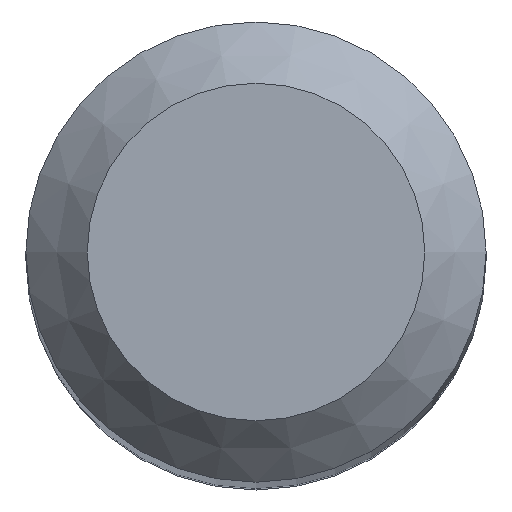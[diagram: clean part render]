
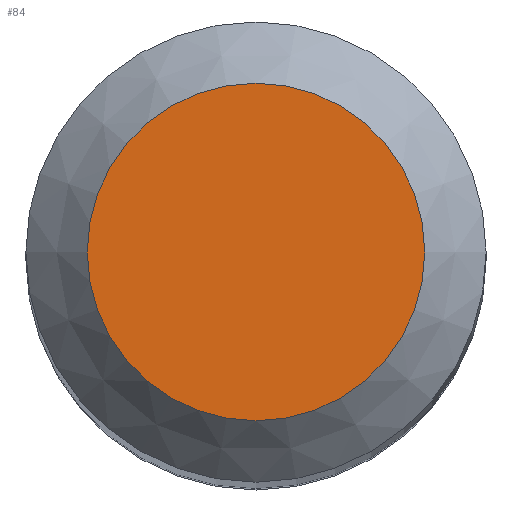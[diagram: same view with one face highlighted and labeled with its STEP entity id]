
A CAD part, top view. The second image highlights one B-rep face of the part: STEP entity #84.
In plain terms, the highlighted planar face has unit normal (0, 0, 1).
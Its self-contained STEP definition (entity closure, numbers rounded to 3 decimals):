
#68=CARTESIAN_POINT('',(2.2,0.0,62.0));
#69=DIRECTION('',(0.0,0.0,1.0));
#70=DIRECTION('',(1.0,0.0,0.0));
#71=AXIS2_PLACEMENT_3D('',#68,#69,#70);
#72=PLANE('',#71);
#73=CARTESIAN_POINT('',(-2.2,0.0,62.0));
#74=VERTEX_POINT('',#73);
#75=CARTESIAN_POINT('',(0.0,0.0,62.0));
#76=DIRECTION('',(0.0,0.0,-1.0));
#77=DIRECTION('',(-1.0,0.0,0.0));
#78=AXIS2_PLACEMENT_3D('',#75,#76,#77);
#79=CIRCLE('',#78,2.2);
#80=EDGE_CURVE('',#74,#74,#79,.T.);
#81=ORIENTED_EDGE('',*,*,#80,.F.);
#82=EDGE_LOOP('',(#81));
#83=FACE_OUTER_BOUND('',#82,.T.);
#84=ADVANCED_FACE('',(#83),#72,.T.);
